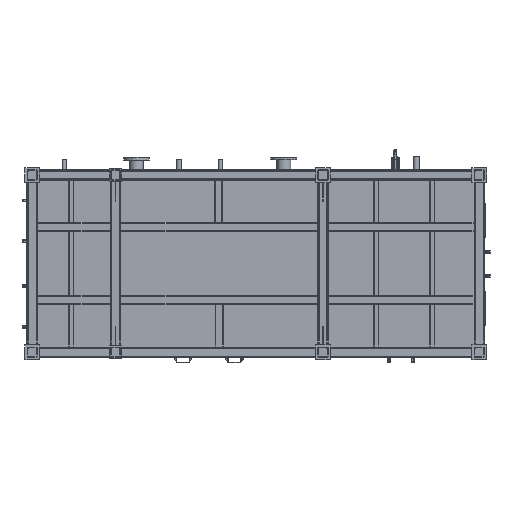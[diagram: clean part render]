
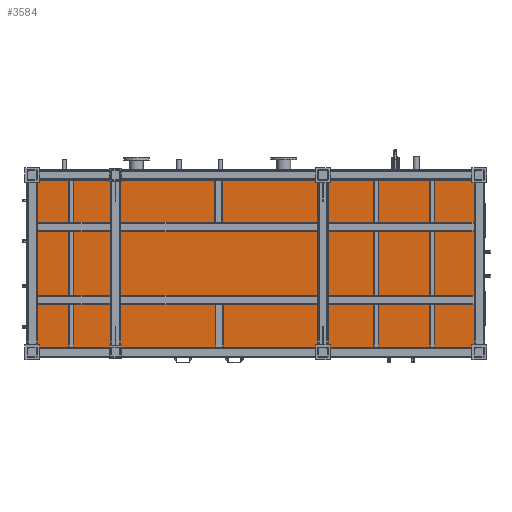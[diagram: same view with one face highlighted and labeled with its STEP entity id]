
A CAD part, front view. The second image highlights one B-rep face of the part: STEP entity #3584.
In plain terms, the highlighted planar face has unit normal (0, -1, 0).
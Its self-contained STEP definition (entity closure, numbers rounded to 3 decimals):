
#3584=ADVANCED_FACE('',(#41319),#41321,.F.);
#41319=FACE_BOUND('',#41320,.T.);
#41320=EDGE_LOOP('',(#104729,#104730,#104731,#104732));
#41321=PLANE('',#41322);
#41322=AXIS2_PLACEMENT_3D('',#41323,#41324,#41325);
#41323=CARTESIAN_POINT('',(230.556,-3.,0.));
#41324=DIRECTION('',(0.,1.,0.));
#41325=DIRECTION('',(-1.,0.,0.));
#104729=ORIENTED_EDGE('',*,*,#129610,.F.);
#104730=ORIENTED_EDGE('',*,*,#129608,.F.);
#104731=ORIENTED_EDGE('',*,*,#129606,.F.);
#104732=ORIENTED_EDGE('',*,*,#129603,.F.);
#129603=EDGE_CURVE('',#144865,#144866,#144867,.T.);
#129606=EDGE_CURVE('',#144866,#144870,#144871,.T.);
#129608=EDGE_CURVE('',#144870,#144873,#144874,.T.);
#129610=EDGE_CURVE('',#144873,#144865,#144876,.T.);
#144865=VERTEX_POINT('',#172411);
#144866=VERTEX_POINT('',#172412);
#144867=LINE('',#172413,#172414);
#144870=VERTEX_POINT('',#172422);
#144871=LINE('',#172423,#172424);
#144873=VERTEX_POINT('',#172429);
#144874=LINE('',#172430,#172431);
#144876=LINE('',#172436,#172437);
#172411=CARTESIAN_POINT('',(-1950.365,-3.,886.5));
#172412=CARTESIAN_POINT('',(2411.476,-3.,886.5));
#172413=CARTESIAN_POINT('',(-1950.365,-3.,886.5));
#172414=VECTOR('',#172415,1.);
#172415=DIRECTION('',(1.,0.,0.));
#172422=CARTESIAN_POINT('',(2411.476,-3.,-886.5));
#172423=CARTESIAN_POINT('',(2411.476,-3.,886.5));
#172424=VECTOR('',#172425,1.);
#172425=DIRECTION('',(0.,0.,-1.));
#172429=CARTESIAN_POINT('',(-1950.365,-3.,-886.5));
#172430=CARTESIAN_POINT('',(2411.476,-3.,-886.5));
#172431=VECTOR('',#172432,1.);
#172432=DIRECTION('',(-1.,0.,0.));
#172436=CARTESIAN_POINT('',(-1950.365,-3.,-886.5));
#172437=VECTOR('',#172438,1.);
#172438=DIRECTION('',(0.,0.,1.));
